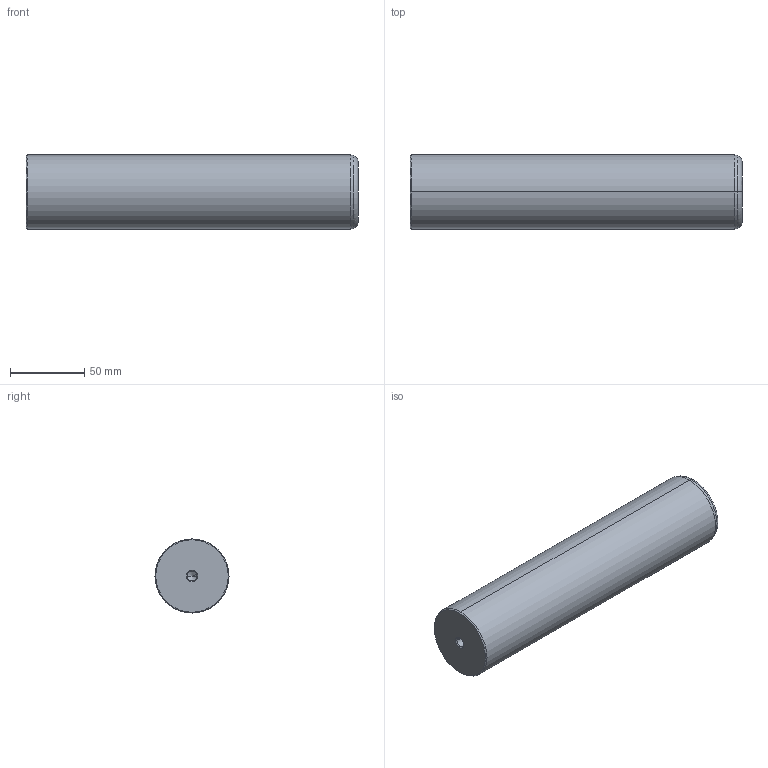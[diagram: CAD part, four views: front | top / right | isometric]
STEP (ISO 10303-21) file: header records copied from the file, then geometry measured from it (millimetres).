
FILE_DESCRIPTION(('CATIA V5 STEP Exchange'),'2;1');
FILE_NAME('C:\Users\Utente\Desktop\IO LAVORO\3D X SITO CF\X SITO\720\720-50x224.stp','2020-12-30T21:42:55+00:00',('none'),('none'),'CATIA Version 5 Release 20 GA (IN-10)','CATIA V5 STEP AP203','none');
FILE_SCHEMA(('CONFIG_CONTROL_DESIGN'));
Length unit declared in the file: millimetre
Products named in the file (1): 720-50x224
Bounding box: 224 x 50 x 50 mm (x, y, z)
Volume: 437278.2 mm3; surface area: 39705.5 mm2
Topology: 1 solids, 1 shells, 22 faces, 56 edges, 34 vertices
Faces by surface type: cone 12, cylinder 6, plane 2, torus 2
Entity records: 755 total; most frequent: CARTESIAN_POINT 216, ORIENTED_EDGE 104, DIRECTION 89, EDGE_CURVE 52, AXIS2_PLACEMENT_3D 50, VERTEX_POINT 34, CIRCLE 27, EDGE_LOOP 24
